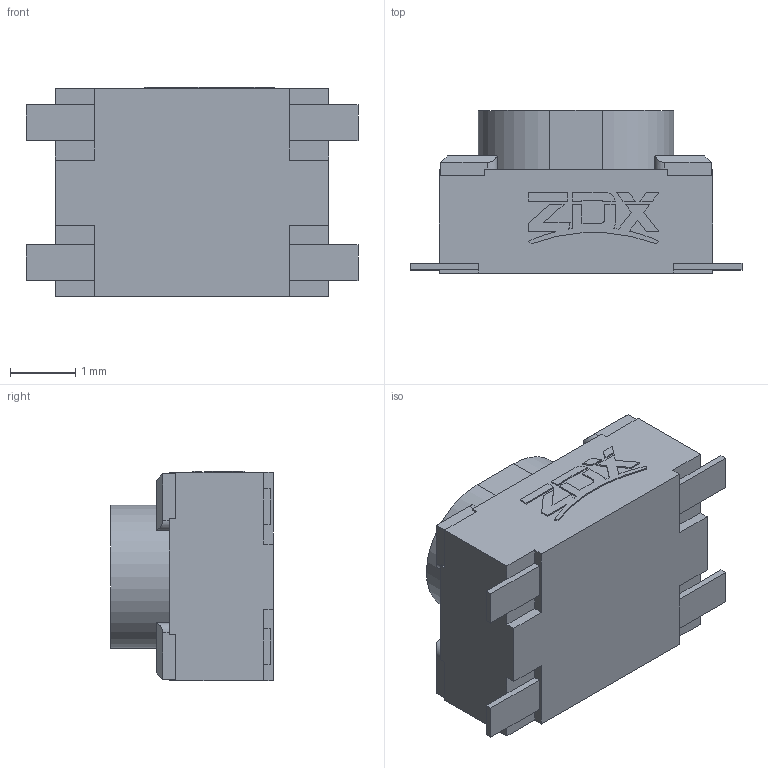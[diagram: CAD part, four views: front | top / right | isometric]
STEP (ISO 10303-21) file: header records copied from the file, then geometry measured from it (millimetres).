
FILE_DESCRIPTION((''),'2;1');
FILE_NAME('ASM0016_ASM','2024-01-07T',('WYH'),(''),'PRO/ENGINEER BY PARAMETRIC TECHNOLOGY CORPORATION, 2013040','PRO/ENGINEER BY PARAMETRIC TECHNOLOGY CORPORATION, 2013040','');
FILE_SCHEMA(('CONFIG_CONTROL_DESIGN'));
Length unit declared in the file: millimetre
Products named in the file (1): ASM0016_ASM
Bounding box: 5.1 x 2.5 x 3.22 mm (x, y, z)
Volume: 26.7 mm3; surface area: 65 mm2
Topology: 1 solids, 1 shells, 153 faces, 436 edges, 292 vertices
Faces by surface type: plane 131, cylinder 22
Entity records: 5001 total; most frequent: CARTESIAN_POINT 918, ORIENTED_EDGE 872, DIRECTION 794, EDGE_CURVE 436, VECTOR 368, LINE 368, VERTEX_POINT 292, AXIS2_PLACEMENT_3D 213
